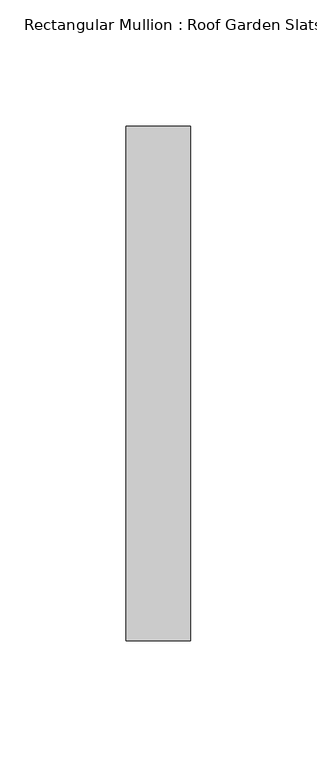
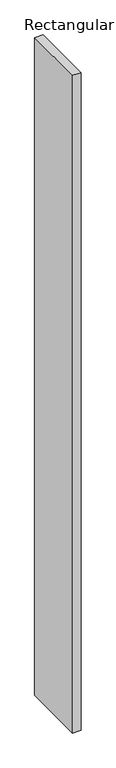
"""IFC4 building model written with IfcOpenShell, lengths in millimetres: member geometry, Rectangular Mullion : Roof Garden Slats."""

from ifc_helpers import new_model, si_unit, frame, origin, place, context, project, spatial, polyline, outline, extrude, source, transform, mapped, element, save


def rectangular_mullion_roof_garden_slats_9d65d462(model_context):
    return source(origin(), model_context, "Body", "SweptSolid", [
        extrude(outline(polyline([(12.7, 139.7), (12.7, -63.5), (-12.7, -63.5), (-12.7, 139.7), (12.7, 139.7)])), frame((0.0, 0.0, -2144.7585279), z_axis=(0.0, 0.0, 1.0), x_axis=(1.0, 0.0, 0.0)), (0.0, 0.0, 1.0), 2144.7585279),
    ])


if __name__ == "__main__":
    model = new_model("IFC4")
    model_context = context("Model", 3, world=origin())
    ifc_project = project(units=[si_unit("LENGTHUNIT", "METRE", prefix="MILLI")], contexts=[model_context])
    site = spatial("IfcSite", under=ifc_project)
    building = spatial("IfcBuilding", under=site)
    placement = place(None, origin())
    rectangular_mullion_roof_garden_slats_shape = rectangular_mullion_roof_garden_slats_9d65d462(model_context)
    element("IfcMember", 1, ObjectType="Rectangular Mullion : Roof Garden Slats", at=placement, inside=building, context=model_context, shape_type="MappedRepresentation", body=[
        mapped(rectangular_mullion_roof_garden_slats_shape, transform((0.0, 0.0, 0.0), x_axis=(1.0, 0.0, 0.0), y_axis=(0.0, 1.0, 0.0), z_axis=(0.0, 0.0, 1.0))),
    ])
    save(model, "model.ifc")
